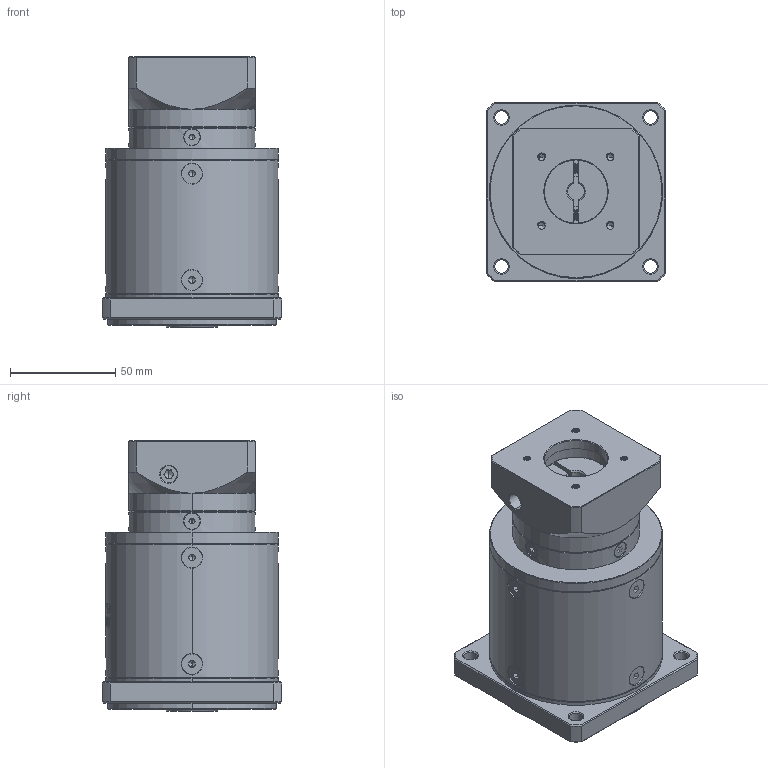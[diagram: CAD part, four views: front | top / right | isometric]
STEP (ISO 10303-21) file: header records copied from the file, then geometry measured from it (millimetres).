
FILE_DESCRIPTION (( 'STEP AP214' ), '1' );
FILE_NAME ('ZF080-K15-L3-P2-8-30-46-M4.step', '2023-08-19T07:01:22', ( '' ), ( '' ), 'SwSTEP 2.0', 'SolidWorks 2016', '' );
FILE_SCHEMA (( 'AUTOMOTIVE_DESIGN' ));
Length unit declared in the file: millimetre
Products named in the file (1): ZF080-K15-L3-P2-8-30-46-M4
Bounding box: 85 x 85 x 128.5 mm (x, y, z)
Volume: 562300.5 mm3; surface area: 72134.8 mm2
Topology: 18 solids, 18 shells, 2231 faces, 5891 edges, 3760 vertices
Faces by surface type: plane 1118, bspline 390, cylinder 369, cone 314, torus 40
Entity records: 114709 total; most frequent: CARTESIAN_POINT 39734, ORIENTED_EDGE 11710, DIRECTION 8786, EDGE_CURVE 5855, VERTEX_POINT 3760, LINE 3112, VECTOR 3112, AXIS2_PLACEMENT_3D 2837
